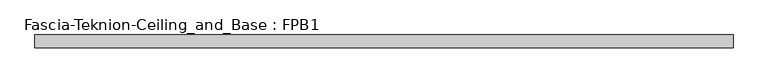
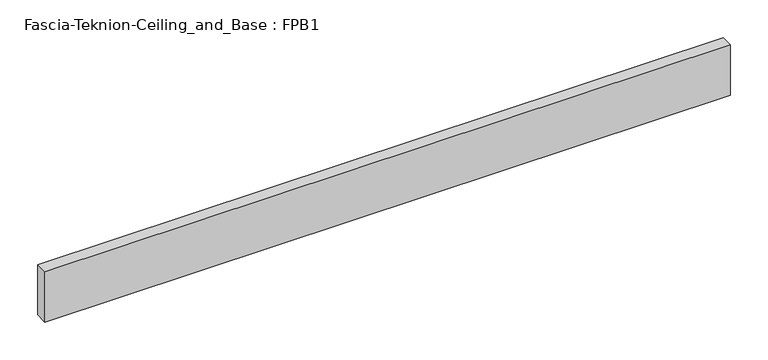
"""IFC4 building model written with IfcOpenShell, lengths in millimetres: proxy geometry, Fascia-Teknion-Ceiling_and_Base : FPB1."""

from ifc_helpers import new_model, si_unit, origin, origin_with_axes, place, context, project, spatial, polyline, outline, extrude, source, transform, mapped, element, save


def fascia_teknion_ceiling_and_base_fpb1_b2a0df2f(model_context):
    return source(origin(), model_context, "Body", "SweptSolid", [
        extrude(outline(polyline([(523.875, 0.0), (523.875, -19.05), (-523.875, -19.05), (-523.875, 0.0), (523.875, 0.0)])), origin_with_axes(), (0.0, 0.0, 1.0), 81.28),
    ])


if __name__ == "__main__":
    model = new_model("IFC4")
    model_context = context("Model", 3, world=origin())
    ifc_project = project(units=[si_unit("LENGTHUNIT", "METRE", prefix="MILLI")], contexts=[model_context])
    site = spatial("IfcSite", under=ifc_project)
    building = spatial("IfcBuilding", under=site)
    placement = place(None, origin())
    fascia_teknion_ceiling_and_base_fpb1_shape = fascia_teknion_ceiling_and_base_fpb1_b2a0df2f(model_context)
    element("IfcBuildingElementProxy", 1, Name="Fascia-Teknion-Ceiling_and_Base : FPB1", ObjectType="Fascia-Teknion-Ceiling_and_Base : FPB1", at=placement, inside=building, context=model_context, shape_type="MappedRepresentation", body=[
        mapped(fascia_teknion_ceiling_and_base_fpb1_shape, transform((0.0, 0.0, 0.0), x_axis=(1.0, 0.0, 0.0), y_axis=(0.0, 1.0, 0.0), z_axis=(0.0, 0.0, 1.0))),
    ])
    save(model, "model.ifc")
